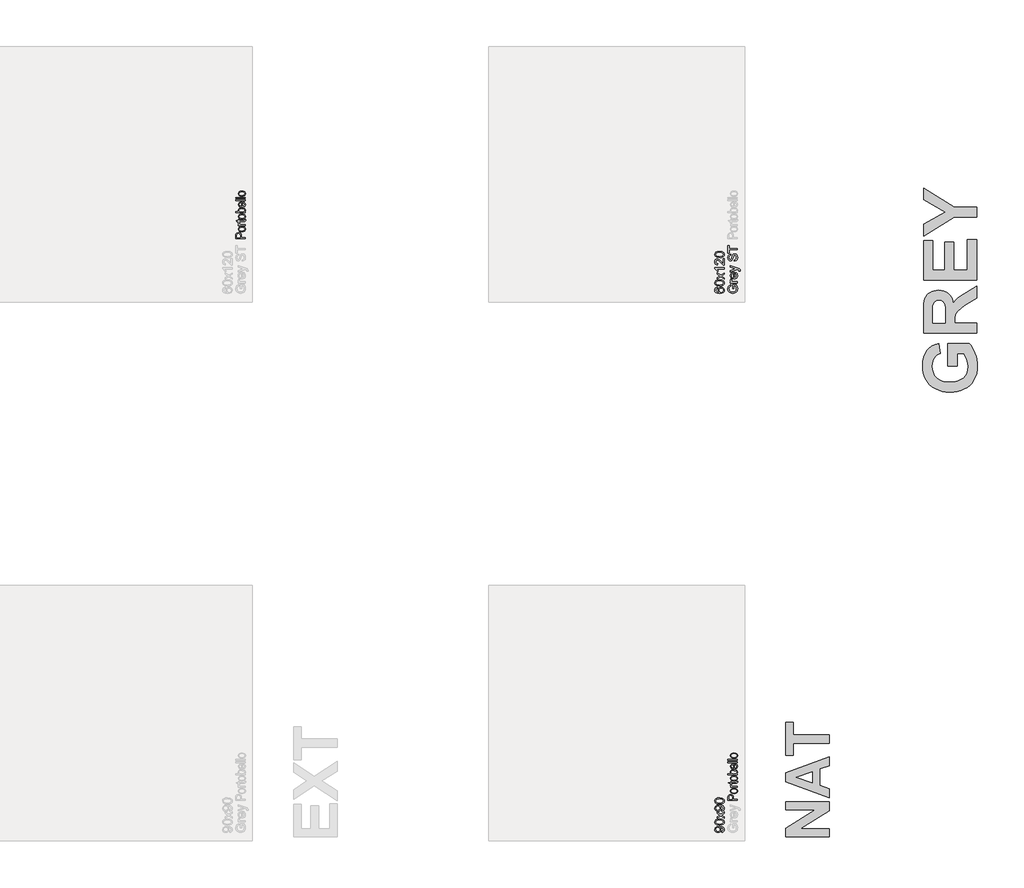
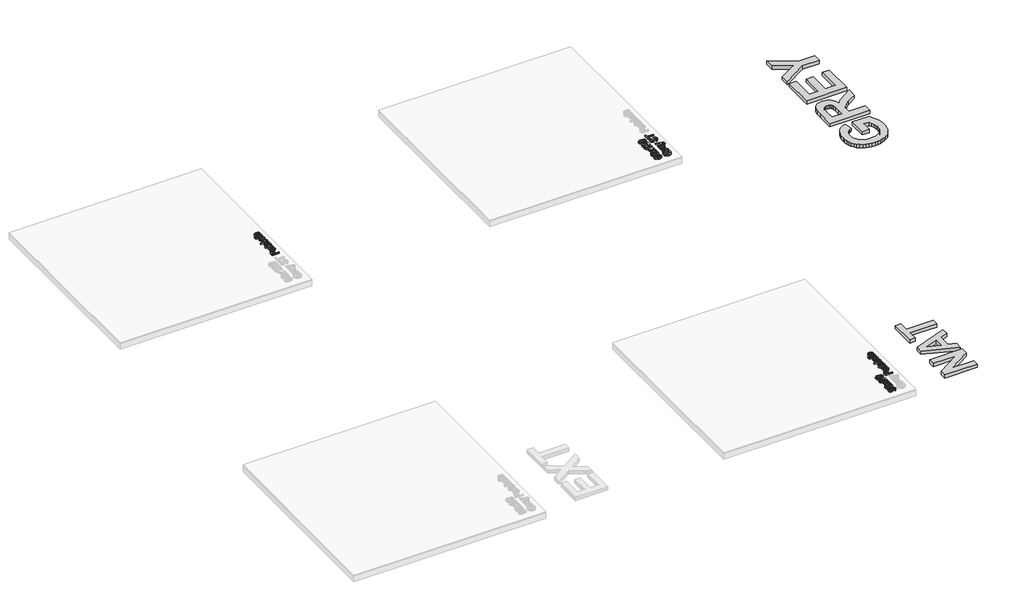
# One storey, part 10 of 12: 7 proxies.
"""IFC4 building model written with IfcOpenShell, lengths in millimetres."""

from ifc_helpers import new_model, si_unit, frame, origin, origin_with_axes, place, context, project, spatial, polyline, outline, extrude, element, save

model = new_model("IFC4")

# Units and contexts
model_context = context("Model", 3, world=origin())
ifc_project = project(units=[si_unit("LENGTHUNIT", "METRE", prefix="MILLI")], contexts=[model_context])

# Site, building, storey
site = spatial("IfcSite", under=ifc_project)
building = spatial("IfcBuilding", under=site)
storey = spatial("IfcBuildingStorey", under=building, Name="PORTOBELLO - SHOWROOM", Elevation=0.0)

# Proxies
placement = place(None, origin())
element("IfcBuildingElementProxy", 1, Name="10mm Arial", ObjectType="10mm Arial", at=placement, inside=storey, context=model_context, shape_type="SweptSolid", body=[
    extrude(outline(polyline([(-5849.6684495, 10045.4720907), (-5851.2380793, 10058.0291294), (-5839.257389, 10063.6699867), (-5835.5417809, 10074.36309), (-5837.9330138, 10084.5288958), (-5844.3218978, 10091.4205519), (-5855.2357304, 10095.5285675), (-5869.8038574, 10097.343452), (-5872.256404, 10097.2698756), (-5862.7405231, 10087.2266971), (-5859.0862286, 10073.4556478), (-5861.318046, 10062.0053207), (-5868.0134983, 10052.4741113), (-5878.3571138, 10046.0453734), (-5891.5334205, 10043.9024608), (-5905.1450544, 10046.1496067), (-5915.8136322, 10052.8910442), (-5922.7114196, 10063.0169961), (-5925.0106821, 10075.4176851), (-5919.7622323, 10093.3090128), (-5904.8016978, 10105.6207969), (-5876.6955134, 10109.8269143), (-5846.198096, 10105.6330596), (-5836.2070342, 10100.4183323), (-5828.919905, 10093.16186), (-5824.4685328, 10084.1763422), (-5822.9847421, 10073.7744788), (-5824.7352473, 10063.0384559), (-5829.9867628, 10054.4729368), (-5838.4081948, 10048.4825916), (-5849.6684495, 10045.4720907)]), holes=[polyline([(-5891.8277261, 10097.2698756), (-5900.338063, 10095.9148436), (-5906.8863625, 10091.8497475), (-5911.0618231, 10085.5405713), (-5912.4536433, 10077.4532988), (-5910.9545242, 10069.0655893), (-5906.4571668, 10062.3456115), (-5899.5747078, 10057.9310276), (-5890.9202839, 10056.4594996), (-5883.1610395, 10057.8513198), (-5877.0020817, 10062.0267804), (-5872.9829709, 10068.5812113), (-5871.6432673, 10077.1099422), (-5877.0020817, 10091.5922301), (-5883.3879, 10095.8504642), (-5891.8277261, 10097.2698756)])]), frame((0.0, 0.0, 18.0), z_axis=(0.0, 0.0, 1.0), x_axis=(1.0, 0.0, 0.0)), (0.0, 0.0, 1.0), 20.0),
    extrude(outline(polyline([(-5873.9731866, 10120.8143233), (-5902.8764487, 10124.505406), (-5919.5415031, 10135.4682894), (-5925.0106821, 10153.77655), (-5921.7733205, 10168.4427789), (-5912.4413806, 10178.5717965), (-5897.578948, 10184.4579084), (-5873.9731866, 10186.7387768), (-5845.1925519, 10183.0844823), (-5828.4907093, 10172.1583871), (-5824.3612339, 10163.9270274), (-5822.9847421, 10153.77655), (-5825.3759751, 10140.7290019), (-5832.549674, 10130.8207135), (-5849.5396908, 10123.3159208), (-5873.9731866, 10120.8143233)]), holes=[polyline([(-5873.9977121, 10133.371362), (-5854.2455147, 10134.84289), (-5842.8135817, 10139.257474), (-5837.3597311, 10145.8302989), (-5835.5417809, 10153.77655), (-5837.3658624, 10161.7228011), (-5842.8381071, 10168.2956261), (-5854.2761715, 10172.7102101), (-5873.9977121, 10174.181738), (-5893.3053855, 10172.759261), (-5904.8262233, 10168.4918298), (-5910.5467883, 10161.9312676), (-5912.4536433, 10153.6293972), (-5910.7736489, 10145.7689853), (-5905.7336656, 10139.4536777), (-5893.4954579, 10134.8919409), (-5873.9977121, 10133.371362)])]), frame((0.0, 0.0, 18.0), z_axis=(0.0, 0.0, 1.0), x_axis=(1.0, 0.0, 0.0)), (0.0, 0.0, 1.0), 20.0),
    extrude(outline(polyline([(-5824.554372, 10193.0172962), (-5861.6614025, 10219.8481564), (-5898.3269747, 10194.586926), (-5898.3269747, 10209.6455624), (-5880.6441135, 10221.8347191), (-5872.3299804, 10227.5491528), (-5879.14806, 10232.503297), (-5898.3269747, 10246.384711), (-5898.3269747, 10261.4923982), (-5861.6368771, 10234.9558436), (-5824.554372, 10260.5113796), (-5824.554372, 10245.4282178), (-5846.8725463, 10230.0262249), (-5850.9682992, 10227.2303217), (-5824.554372, 10208.1249835), (-5824.554372, 10193.0172962)])), frame((0.0, 0.0, 18.0), z_axis=(0.0, 0.0, 1.0), x_axis=(1.0, 0.0, 0.0)), (0.0, 0.0, 1.0), 20.0),
    extrude(outline(polyline([(-5849.6684495, 10269.9291586), (-5851.2380793, 10282.4861974), (-5839.257389, 10288.1270547), (-5835.5417809, 10298.820158), (-5837.9330138, 10308.9859638), (-5844.3218978, 10315.8776198), (-5855.2357304, 10319.9856355), (-5869.8038574, 10321.80052), (-5872.256404, 10321.7269436), (-5862.7405231, 10311.6837651), (-5859.0862286, 10297.9127157), (-5861.318046, 10286.4623886), (-5868.0134983, 10276.9311793), (-5878.3571138, 10270.5024414), (-5891.5334205, 10268.3595288), (-5905.1450544, 10270.6066747), (-5915.8136322, 10277.3481122), (-5922.7114196, 10287.4740641), (-5925.0106821, 10299.8747531), (-5919.7622323, 10317.7660808), (-5904.8016978, 10330.0778649), (-5876.6955134, 10334.2839823), (-5846.198096, 10330.0901276), (-5836.2070342, 10324.8754003), (-5828.919905, 10317.618928), (-5824.4685328, 10308.6334102), (-5822.9847421, 10298.2315468), (-5824.7352473, 10287.4955239), (-5829.9867628, 10278.9300048), (-5838.4081948, 10272.9396596), (-5849.6684495, 10269.9291586)]), holes=[polyline([(-5891.8277261, 10321.7269436), (-5900.338063, 10320.3719116), (-5906.8863625, 10316.3068155), (-5911.0618231, 10309.9976393), (-5912.4536433, 10301.9103668), (-5910.9545242, 10293.5226573), (-5906.4571668, 10286.8026795), (-5899.5747078, 10282.3880955), (-5890.9202839, 10280.9165676), (-5883.1610395, 10282.3083878), (-5877.0020817, 10286.4838484), (-5872.9829709, 10293.0382793), (-5871.6432673, 10301.5670102), (-5877.0020817, 10316.0492981), (-5883.3879, 10320.3075322), (-5891.8277261, 10321.7269436)])]), frame((0.0, 0.0, 18.0), z_axis=(0.0, 0.0, 1.0), x_axis=(1.0, 0.0, 0.0)), (0.0, 0.0, 1.0), 20.0),
    extrude(outline(polyline([(-5873.9731866, 10345.2713913), (-5902.8764487, 10348.9624739), (-5919.5415031, 10359.9253574), (-5925.0106821, 10378.233618), (-5921.7733205, 10392.8998469), (-5912.4413806, 10403.0288645), (-5897.578948, 10408.9149764), (-5873.9731866, 10411.1958448), (-5845.1925519, 10407.5415503), (-5828.4907093, 10396.6154551), (-5824.3612339, 10388.3840954), (-5822.9847421, 10378.233618), (-5825.3759751, 10365.1860699), (-5832.549674, 10355.2777815), (-5849.5396908, 10347.7729888), (-5873.9731866, 10345.2713913)]), holes=[polyline([(-5873.9977121, 10357.82843), (-5854.2455147, 10359.299958), (-5842.8135817, 10363.7145419), (-5837.3597311, 10370.2873669), (-5835.5417809, 10378.233618), (-5837.3658624, 10386.1798691), (-5842.8381071, 10392.7526941), (-5854.2761715, 10397.167278), (-5873.9977121, 10398.638806), (-5893.3053855, 10397.216329), (-5904.8262233, 10392.9488978), (-5910.5467883, 10386.3883356), (-5912.4536433, 10378.0864652), (-5910.7736489, 10370.2260533), (-5905.7336656, 10363.9107457), (-5893.4954579, 10359.3490089), (-5873.9977121, 10357.82843)])]), frame((0.0, 0.0, 18.0), z_axis=(0.0, 0.0, 1.0), x_axis=(1.0, 0.0, 0.0)), (0.0, 0.0, 1.0), 20.0),
])
element("IfcBuildingElementProxy", 2, Name="10mm Arial", ObjectType="10mm Arial", at=placement, inside=storey, context=model_context, shape_type="SweptSolid", body=[
    extrude(outline(polyline([(-5723.7951181, 15795.7002457), (-5736.3521569, 15795.7002457), (-5736.3521569, 15836.5106217), (-5698.8036679, 15836.5106217), (-5686.9578677, 15816.3629511), (-5682.9847421, 15795.0625836), (-5684.563569, 15780.9757689), (-5689.3000497, 15768.2439862), (-5697.0286373, 15757.6673788), (-5707.5837849, 15750.0460901), (-5720.2450569, 15745.4383681), (-5734.2920177, 15743.9024608), (-5748.4401461, 15745.4322368), (-5761.6011245, 15750.0215647), (-5772.64065, 15757.4803721), (-5780.4244199, 15767.6185868), (-5785.0413389, 15779.9671591), (-5786.580312, 15794.0570395), (-5783.0118566, 15813.701938), (-5773.0790427, 15827.4729874), (-5756.4630393, 15835.0636192), (-5753.2011523, 15823.4875991), (-5764.8139606, 15817.7609027), (-5771.5094129, 15807.9752416), (-5774.0232732, 15793.8608358), (-5771.3132092, 15777.7843926), (-5764.2008239, 15766.8460346), (-5754.5255274, 15760.3835742), (-5734.8070525, 15756.4594996), (-5712.9180738, 15761.1806518), (-5699.8214748, 15774.914913), (-5695.5417809, 15794.0570395), (-5698.7668797, 15811.2371287), (-5705.646273, 15823.953583), (-5723.7951181, 15823.953583), (-5723.7951181, 15795.7002457)])), frame((0.0, 0.0, 19.0), z_axis=(0.0, 0.0, 1.0), x_axis=(1.0, 0.0, 0.0)), (0.0, 0.0, 1.0), 20.0),
    extrude(outline(polyline([(-5684.554372, 15855.3461799), (-5758.3269747, 15855.3461799), (-5758.3269747, 15866.3335888), (-5747.4131422, 15866.3335888), (-5757.4685834, 15874.1326871), (-5759.8966046, 15881.9808363), (-5756.0215809, 15894.586926), (-5744.7643918, 15890.3930713), (-5747.3395658, 15881.5639034), (-5744.8624937, 15874.4637809), (-5737.9953631, 15869.9388324), (-5723.3291342, 15867.9032186), (-5684.554372, 15867.9032186), (-5684.554372, 15855.3461799)])), frame((0.0, 0.0, 19.0), z_axis=(0.0, 0.0, 1.0), x_axis=(1.0, 0.0, 0.0)), (0.0, 0.0, 1.0), 20.0),
    extrude(outline(polyline([(-5706.5291898, 15954.0857074), (-5704.95956, 15966.3974915), (-5695.6828023, 15961.9614478), (-5688.7482267, 15954.882785), (-5684.4256133, 15945.3209189), (-5682.9847421, 15933.4352647), (-5685.4710113, 15918.7015908), (-5692.9298187, 15907.364694), (-5704.8767865, 15900.1358128), (-5720.8275367, 15897.7261857), (-5737.3147814, 15900.1603383), (-5749.6449596, 15907.4627959), (-5757.3336933, 15918.6464085), (-5759.8966046, 15932.7240262), (-5757.3398247, 15946.3632512), (-5749.6694851, 15957.2617553), (-5737.3638324, 15964.407863), (-5720.9011131, 15966.789899), (-5717.5165987, 15966.7163226), (-5717.5165987, 15910.2832245), (-5708.1172137, 15912.4567939), (-5701.2071636, 15917.5059743), (-5696.9581266, 15924.7931035), (-5695.5417809, 15933.6805194), (-5698.1660058, 15945.9923035), (-5706.5291898, 15954.0857074)]), holes=[polyline([(-5730.0736375, 15910.2832245), (-5730.0736375, 15954.2328602), (-5741.4534539, 15949.2051396), (-5745.8680378, 15941.8842879), (-5747.3395658, 15932.6749753), (-5742.642939, 15917.2116687), (-5737.1523002, 15912.3464294), (-5730.0736375, 15910.2832245)])]), frame((0.0, 0.0, 19.0), z_axis=(0.0, 0.0, 1.0), x_axis=(1.0, 0.0, 0.0)), (0.0, 0.0, 1.0), 20.0),
    extrude(outline(polyline([(-5656.3010347, 15979.3469377), (-5668.3920896, 15977.7773079), (-5667.2884437, 15984.1539291), (-5668.6741325, 15990.1136174), (-5672.5368934, 15993.7679119), (-5681.7829943, 15997.2014772), (-5684.8241521, 15998.1824959), (-5758.3269747, 15971.4987885), (-5758.3269747, 15984.7180149), (-5717.3449205, 15998.8937344), (-5700.9619089, 16003.8233531), (-5715.4564596, 16008.7529719), (-5758.3269747, 16023.2965734), (-5758.3269747, 16036.4176979), (-5682.7885384, 16010.7395346), (-5666.4055269, 16004.0686078), (-5657.5518335, 15996.7845443), (-5654.7314049, 15987.0234087), (-5656.3010347, 15979.3469377)])), frame((0.0, 0.0, 19.0), z_axis=(0.0, 0.0, 1.0), x_axis=(1.0, 0.0, 0.0)), (0.0, 0.0, 1.0), 20.0),
    extrude(outline(polyline([(-5719.0862286, 16082.9425076), (-5719.0862286, 16095.4995463), (-5706.5169271, 16099.5462483), (-5698.570676, 16109.4300112), (-5695.5417809, 16124.4886476), (-5697.834912, 16137.609772), (-5704.1379568, 16146.0833207), (-5712.5624545, 16148.8669611), (-5720.398341, 16146.7822965), (-5726.1005119, 16138.2474342), (-5730.8952406, 16119.963699), (-5737.0879209, 16100.2820123), (-5746.4321235, 16089.6011717), (-5758.9155859, 16086.0817673), (-5773.1280937, 16090.4350375), (-5783.1590094, 16103.1514918), (-5786.580312, 16121.7663208), (-5782.9995939, 16141.6319485), (-5772.4781688, 16154.8757004), (-5756.7573449, 16159.85437), (-5756.7573449, 16147.2973313), (-5764.2498748, 16144.9919374), (-5769.6577402, 16140.184946), (-5774.0232732, 16122.2568301), (-5769.7067911, 16104.2796633), (-5759.2834679, 16098.638806), (-5750.5769274, 16102.636457), (-5743.562644, 16123.1397469), (-5737.2595991, 16145.3598194), (-5727.0815306, 16157.512188), (-5712.8812856, 16161.4239999), (-5697.8594375, 16156.9235768), (-5686.896554, 16143.9741306), (-5682.9847421, 16124.9791569), (-5687.2031223, 16102.5506179), (-5699.9073139, 16088.3626356), (-5719.0862286, 16082.9425076)])), frame((0.0, 0.0, 19.0), z_axis=(0.0, 0.0, 1.0), x_axis=(1.0, 0.0, 0.0)), (0.0, 0.0, 1.0), 20.0),
    extrude(outline(polyline([(-5684.554372, 16205.3736356), (-5772.4536433, 16205.3736356), (-5772.4536433, 16172.4114088), (-5785.0106821, 16172.4114088), (-5785.0106821, 16250.8929011), (-5772.4536433, 16250.8929011), (-5772.4536433, 16217.9306743), (-5684.554372, 16217.9306743), (-5684.554372, 16205.3736356)])), frame((0.0, 0.0, 19.0), z_axis=(0.0, 0.0, 1.0), x_axis=(1.0, 0.0, 0.0)), (0.0, 0.0, 1.0), 20.0),
])
element("IfcBuildingElementProxy", 3, Name="10mm Arial", ObjectType="10mm Arial", at=placement, inside=storey, context=model_context, shape_type="SweptSolid", body=[
    extrude(outline(polyline([(-5898.3269747, 15808.2572845), (-5896.7573449, 15795.7002457), (-5907.229719, 15790.9423053), (-5912.4536433, 15778.360741), (-5909.4124855, 15767.0299756), (-5897.9958809, 15758.4583251), (-5875.6163929, 15754.8898697), (-5885.6350459, 15765.9631178), (-5888.9091956, 15779.6851162), (-5886.6712468, 15791.2856618), (-5879.9574004, 15801.0222719), (-5869.6996241, 15807.6257537), (-5856.8298857, 15809.8269143), (-5839.5026437, 15805.6821105), (-5827.2399105, 15794.2777687), (-5822.9847421, 15777.8211808), (-5825.8051707, 15763.5749505), (-5834.2664566, 15752.2288566), (-5849.2024656, 15744.8068374), (-5871.4470636, 15742.332831), (-5896.4569079, 15745.0796832), (-5913.5572893, 15753.3202399), (-5922.1473339, 15764.5712976), (-5925.0106821, 15779.1455559), (-5923.2387172, 15790.1636217), (-5917.9228223, 15798.9866582), (-5909.4799305, 15805.1670757), (-5898.3269747, 15808.2572845)]), holes=[polyline([(-5857.0260894, 15754.8898697), (-5846.1490451, 15757.7961375), (-5838.2518449, 15765.5216594), (-5835.5417809, 15776.8401621), (-5836.9458638, 15785.1267041), (-5841.1581127, 15791.641281), (-5847.7799886, 15795.8627269), (-5856.4129527, 15797.2698756), (-5864.6994947, 15795.881121), (-5871.0178679, 15791.7148574), (-5875.0185846, 15785.0899159), (-5876.3521569, 15776.3251273), (-5871.0178679, 15761.1316009), (-5864.8527788, 15756.4503025), (-5857.0260894, 15754.8898697)])]), frame((0.0, 0.0, 19.0), z_axis=(0.0, 0.0, 1.0), x_axis=(1.0, 0.0, 0.0)), (0.0, 0.0, 1.0), 20.0),
    extrude(outline(polyline([(-5873.9731866, 15820.8143233), (-5902.8764487, 15824.505406), (-5919.5415031, 15835.4682894), (-5925.0106821, 15853.77655), (-5921.7733205, 15868.4427789), (-5912.4413806, 15878.5717965), (-5897.578948, 15884.4579084), (-5873.9731866, 15886.7387768), (-5845.1925519, 15883.0844823), (-5828.4907093, 15872.1583871), (-5824.3612339, 15863.9270274), (-5822.9847421, 15853.77655), (-5825.3759751, 15840.7290019), (-5832.549674, 15830.8207135), (-5849.5396908, 15823.3159208), (-5873.9731866, 15820.8143233)]), holes=[polyline([(-5873.9977121, 15833.371362), (-5854.2455147, 15834.84289), (-5842.8135817, 15839.257474), (-5837.3597311, 15845.8302989), (-5835.5417809, 15853.77655), (-5837.3658624, 15861.7228011), (-5842.8381071, 15868.2956261), (-5854.2761715, 15872.7102101), (-5873.9977121, 15874.181738), (-5893.3053855, 15872.759261), (-5904.8262233, 15868.4918298), (-5910.5467883, 15861.9312676), (-5912.4536433, 15853.6293972), (-5910.7736489, 15845.7689853), (-5905.7336656, 15839.4536777), (-5893.4954579, 15834.8919409), (-5873.9977121, 15833.371362)])]), frame((0.0, 0.0, 19.0), z_axis=(0.0, 0.0, 1.0), x_axis=(1.0, 0.0, 0.0)), (0.0, 0.0, 1.0), 20.0),
    extrude(outline(polyline([(-5824.554372, 15893.0172962), (-5861.6614025, 15919.8481564), (-5898.3269747, 15894.586926), (-5898.3269747, 15909.6455624), (-5880.6441135, 15921.8347191), (-5872.3299804, 15927.5491528), (-5879.14806, 15932.503297), (-5898.3269747, 15946.384711), (-5898.3269747, 15961.4923982), (-5861.6368771, 15934.9558436), (-5824.554372, 15960.5113796), (-5824.554372, 15945.4282178), (-5846.8725463, 15930.0262249), (-5850.9682992, 15927.2303217), (-5824.554372, 15908.1249835), (-5824.554372, 15893.0172962)])), frame((0.0, 0.0, 19.0), z_axis=(0.0, 0.0, 1.0), x_axis=(1.0, 0.0, 0.0)), (0.0, 0.0, 1.0), 20.0),
    extrude(outline(polyline([(-5824.554372, 16015.4484242), (-5824.554372, 16002.8913854), (-5902.8396605, 16002.8913854), (-5894.3661119, 15990.9965342), (-5888.0262789, 15977.7773079), (-5899.8966046, 15977.7773079), (-5911.6443029, 15996.1836704), (-5925.0106821, 16007.3550203), (-5925.0106821, 16015.4484242), (-5824.554372, 16015.4484242)])), frame((0.0, 0.0, 19.0), z_axis=(0.0, 0.0, 1.0), x_axis=(1.0, 0.0, 0.0)), (0.0, 0.0, 1.0), 20.0),
    extrude(outline(polyline([(-5837.1114107, 16109.6262149), (-5824.554372, 16109.6262149), (-5824.554372, 16043.7017614), (-5833.2118616, 16045.0506621), (-5846.5414525, 16052.6903448), (-5861.0973168, 16068.4234315), (-5882.0175396, 16090.091681), (-5896.2423101, 16095.4995463), (-5907.7570165, 16090.3859866), (-5912.4536433, 16077.0318702), (-5907.8673811, 16063.113668), (-5895.187715, 16057.82843), (-5896.7573449, 16045.2713913), (-5908.9035821, 16048.3156148), (-5917.7756695, 16054.8976368), (-5923.201929, 16064.6741008), (-5925.0106821, 16077.3016503), (-5922.9995939, 16090.0211703), (-5916.9663291, 16099.7792402), (-5907.9532203, 16105.9872489), (-5897.0025995, 16108.0565851), (-5885.0954856, 16105.8247677), (-5872.7837015, 16098.4058141), (-5855.5790869, 16080.4163845), (-5843.5002947, 16065.9708849), (-5837.1114107, 16060.3055021), (-5837.1114107, 16109.6262149)])), frame((0.0, 0.0, 19.0), z_axis=(0.0, 0.0, 1.0), x_axis=(1.0, 0.0, 0.0)), (0.0, 0.0, 1.0), 20.0),
    extrude(outline(polyline([(-5873.9731866, 16122.1832537), (-5902.8764487, 16125.8743364), (-5919.5415031, 16136.8372199), (-5925.0106821, 16155.1454805), (-5921.7733205, 16169.8117094), (-5912.4413806, 16179.940727), (-5897.578948, 16185.8268389), (-5873.9731866, 16188.1077073), (-5845.1925519, 16184.4534128), (-5828.4907093, 16173.5273175), (-5824.3612339, 16165.2959579), (-5822.9847421, 16155.1454805), (-5825.3759751, 16142.0979324), (-5832.549674, 16132.189644), (-5849.5396908, 16124.6848513), (-5873.9731866, 16122.1832537)]), holes=[polyline([(-5873.9977121, 16134.7402925), (-5854.2455147, 16136.2118205), (-5842.8135817, 16140.6264044), (-5837.3597311, 16147.1992294), (-5835.5417809, 16155.1454805), (-5837.3658624, 16163.0917316), (-5842.8381071, 16169.6645566), (-5854.2761715, 16174.0791405), (-5873.9977121, 16175.5506685), (-5893.3053855, 16174.1281914), (-5904.8262233, 16169.8607603), (-5910.5467883, 16163.300198), (-5912.4536433, 16154.9983277), (-5910.7736489, 16147.1379157), (-5905.7336656, 16140.8226081), (-5893.4954579, 16136.2608714), (-5873.9977121, 16134.7402925)])]), frame((0.0, 0.0, 19.0), z_axis=(0.0, 0.0, 1.0), x_axis=(1.0, 0.0, 0.0)), (0.0, 0.0, 1.0), 20.0),
])
element("IfcBuildingElementProxy", 4, Name="10mm Arial Narrow", ObjectType="10mm Arial Narrow", at=placement, inside=storey, context=model_context, shape_type="SweptSolid", body=[
    extrude(outline(polyline([(-5684.554372, 10383.3301461), (-5785.2729757, 10383.3301461), (-5785.2729757, 10414.6270308), (-5783.394655, 10430.9227323), (-5773.9142118, 10442.3957184), (-5756.895103, 10446.6853968), (-5744.8192774, 10444.8990884), (-5735.1928837, 10439.5401632), (-5728.8916253, 10429.7963744), (-5726.7912058, 10414.8554752), (-5726.7912058, 10393.0771077), (-5684.554372, 10393.0771077), (-5684.554372, 10383.3301461)]), holes=[polyline([(-5738.1626611, 10393.0771077), (-5738.1626611, 10416.0484627), (-5742.6934753, 10431.9126581), (-5756.362066, 10436.9384352), (-5766.5278424, 10434.4636207), (-5772.3277923, 10428.4859919), (-5773.9015204, 10415.8200183), (-5773.9015204, 10393.0771077), (-5738.1626611, 10393.0771077)])]), frame((0.0, 0.0, 18.0), z_axis=(0.0, 0.0, 1.0), x_axis=(1.0, 0.0, 0.0)), (0.0, 0.0, 1.0), 20.0),
    extrude(outline(polyline([(-5721.1054782, 10454.8078649), (-5737.6962537, 10456.7623337), (-5749.6483385, 10462.6257404), (-5756.8728931, 10471.4843071), (-5759.281078, 10482.4242562), (-5756.8728931, 10493.2372918), (-5749.6483385, 10502.1212412), (-5737.8866241, 10508.060796), (-5721.8669595, 10510.0406476), (-5704.705073, 10508.0956972), (-5692.5626178, 10502.2608461), (-5685.3380632, 10493.411798), (-5682.9298783, 10482.4242562), (-5685.3444089, 10471.563628), (-5692.5880005, 10462.6891971), (-5704.546431, 10456.7781979), (-5721.1054782, 10454.8078649)]), holes=[polyline([(-5721.1308609, 10464.5548265), (-5708.5791095, 10465.8588634), (-5699.7078514, 10469.770974), (-5694.4345929, 10475.6121707), (-5692.67684, 10482.7034661), (-5694.450457, 10489.4235392), (-5699.7713082, 10495.1156125), (-5708.6584304, 10498.9991676), (-5721.1308609, 10500.2936859), (-5733.6445382, 10498.9896491), (-5742.5031049, 10495.0775385), (-5747.7763635, 10489.2363417), (-5749.5341163, 10482.1450464), (-5747.7668449, 10475.3773806), (-5742.4650308, 10469.6948258), (-5733.5969456, 10465.8398263), (-5721.1308609, 10464.5548265)])]), frame((0.0, 0.0, 18.0), z_axis=(0.0, 0.0, 1.0), x_axis=(1.0, 0.0, 0.0)), (0.0, 0.0, 1.0), 20.0),
    extrude(outline(polyline([(-5692.67684, 10581.5183664), (-5682.9298783, 10583.14286), (-5682.9298783, 10575.7818733), (-5685.0493349, 10567.507109), (-5690.8492847, 10563.1920478), (-5705.4951099, 10562.0244431), (-5747.9096227, 10562.0244431), (-5747.9096227, 10553.901975), (-5751.1586099, 10553.901975), (-5746.2851291, 10552.2774814), (-5747.9096227, 10544.713433), (-5745.5871045, 10538.6342734), (-5739.1018214, 10534.7634097), (-5723.6945148, 10532.7835581), (-5684.554372, 10532.7835581), (-5684.554372, 10523.0365964), (-5757.6565844, 10523.0365964), (-5757.6565844, 10532.7835581), (-5747.9603881, 10532.7835581), (-5757.0473993, 10539.0277054), (-5759.281078, 10545.424149), (-5757.6565844, 10553.901975), (-5757.6565844, 10562.0244431), (-5773.9015204, 10562.0244431), (-5782.0239885, 10571.7714047), (-5757.6565844, 10571.7714047), (-5757.6565844, 10581.5183664), (-5747.9096227, 10581.5183664), (-5747.9096227, 10571.7714047), (-5703.2614312, 10571.7714047), (-5695.2658767, 10572.6344169), (-5692.67684, 10577.2540706), (-5692.67684, 10581.5183664)])), frame((0.0, 0.0, 18.0), z_axis=(0.0, 0.0, 1.0), x_axis=(1.0, 0.0, 0.0)), (0.0, 0.0, 1.0), 20.0),
    extrude(outline(polyline([(-5721.1054782, 10588.0163408), (-5737.6962537, 10589.9708097), (-5749.6483385, 10595.8342163), (-5756.8728931, 10604.692783), (-5759.281078, 10615.6327321), (-5756.8728931, 10626.4457677), (-5749.6483385, 10635.3297172), (-5737.8866241, 10641.2692719), (-5721.8669595, 10643.2491235), (-5704.705073, 10641.3041731), (-5692.5626178, 10635.4693221), (-5685.3380632, 10626.6202739), (-5682.9298783, 10615.6327321), (-5685.3444089, 10604.772104), (-5692.5880005, 10595.8976731), (-5704.546431, 10589.9866739), (-5721.1054782, 10588.0163408)]), holes=[polyline([(-5721.1308609, 10597.7633025), (-5708.5791095, 10599.0673393), (-5699.7078514, 10602.9794499), (-5694.4345929, 10608.8206466), (-5692.67684, 10615.911942), (-5694.450457, 10622.6320152), (-5699.7713082, 10628.3240885), (-5708.6584304, 10632.2076435), (-5721.1308609, 10633.5021618), (-5733.6445382, 10632.198125), (-5742.5031049, 10628.2860144), (-5747.7763635, 10622.4448177), (-5749.5341163, 10615.3535223), (-5747.7668449, 10608.5858566), (-5742.4650308, 10602.9033018), (-5733.5969456, 10599.0483023), (-5721.1308609, 10597.7633025)])]), frame((0.0, 0.0, 18.0), z_axis=(0.0, 0.0, 1.0), x_axis=(1.0, 0.0, 0.0)), (0.0, 0.0, 1.0), 20.0),
    extrude(outline(polyline([(-5684.554372, 10665.992034), (-5684.554372, 10656.2450724), (-5785.2729757, 10656.2450724), (-5785.2729757, 10665.992034), (-5749.8640916, 10665.992034), (-5756.9458684, 10673.3910948), (-5759.281078, 10682.5923281), (-5755.080239, 10695.4740548), (-5742.3508086, 10704.7514362), (-5721.6638978, 10708.2288679), (-5705.2095544, 10706.2966089), (-5693.0068153, 10700.4998319), (-5685.4491126, 10692.1267095), (-5682.9298783, 10682.4654145), (-5685.5442978, 10673.1245763), (-5693.3114078, 10665.992034), (-5684.554372, 10665.992034)]), holes=[polyline([(-5721.6638978, 10665.992034), (-5704.4163446, 10668.0734165), (-5695.6846915, 10673.9622058), (-5692.67684, 10682.4146491), (-5694.4663212, 10688.3573767), (-5699.834765, 10693.595734), (-5721.2577744, 10698.4819062), (-5742.6934753, 10693.773413), (-5747.8239561, 10688.52871), (-5749.5341163, 10682.2115874), (-5747.7446351, 10676.2339586), (-5742.3761914, 10670.941663), (-5721.6638978, 10665.992034)])]), frame((0.0, 0.0, 18.0), z_axis=(0.0, 0.0, 1.0), x_axis=(1.0, 0.0, 0.0)), (0.0, 0.0, 1.0), 20.0),
    extrude(outline(polyline([(-5707.2972825, 10760.2126633), (-5705.6727889, 10769.959625), (-5695.7862223, 10766.2600946), (-5688.6663714, 10760.4411078), (-5684.3640016, 10752.7374545), (-5682.9298783, 10743.3839249), (-5685.3444089, 10731.7903709), (-5692.5880005, 10722.6462486), (-5704.3941347, 10716.7066939), (-5720.4962931, 10714.7268423), (-5737.1632167, 10716.7162124), (-5749.343746, 10722.6843227), (-5756.796745, 10731.6983585), (-5759.281078, 10742.8255052), (-5756.8824116, 10753.5084544), (-5749.6864126, 10762.2559717), (-5737.946908, 10768.0908228), (-5721.917725, 10770.0357731), (-5718.6687377, 10769.959625), (-5718.6687377, 10724.4738039), (-5699.2255799, 10730.4768155), (-5694.314025, 10736.4068517), (-5692.67684, 10743.5108384), (-5696.3319506, 10753.6893062), (-5707.2972825, 10760.2126633)]), holes=[polyline([(-5728.4156994, 10725.1337545), (-5728.4156994, 10760.2126633), (-5742.6807839, 10755.9483676), (-5747.8207832, 10750.1230351), (-5749.5341163, 10742.9016533), (-5743.823006, 10730.6925685), (-5728.4156994, 10725.1337545)])]), frame((0.0, 0.0, 18.0), z_axis=(0.0, 0.0, 1.0), x_axis=(1.0, 0.0, 0.0)), (0.0, 0.0, 1.0), 20.0),
    extrude(outline(polyline([(-5684.554372, 10782.9555739), (-5785.2729757, 10782.9555739), (-5785.2729757, 10792.7025355), (-5684.554372, 10792.7025355), (-5684.554372, 10782.9555739)])), frame((0.0, 0.0, 18.0), z_axis=(0.0, 0.0, 1.0), x_axis=(1.0, 0.0, 0.0)), (0.0, 0.0, 1.0), 20.0),
    extrude(outline(polyline([(-5684.554372, 10808.9474716), (-5785.2729757, 10808.9474716), (-5785.2729757, 10818.6944333), (-5684.554372, 10818.6944333), (-5684.554372, 10808.9474716)])), frame((0.0, 0.0, 18.0), z_axis=(0.0, 0.0, 1.0), x_axis=(1.0, 0.0, 0.0)), (0.0, 0.0, 1.0), 20.0),
    extrude(outline(polyline([(-5721.1054782, 10830.0658885), (-5737.6962537, 10832.0203574), (-5749.6483385, 10837.883764), (-5756.8728931, 10846.7423307), (-5759.281078, 10857.6822799), (-5756.8728931, 10868.4953155), (-5749.6483385, 10877.3792649), (-5737.8866241, 10883.3188196), (-5721.8669595, 10885.2986712), (-5704.705073, 10883.3537209), (-5692.5626178, 10877.5188698), (-5685.3380632, 10868.6698216), (-5682.9298783, 10857.6822799), (-5685.3444089, 10846.8216517), (-5692.5880005, 10837.9472208), (-5704.546431, 10832.0362216), (-5721.1054782, 10830.0658885)]), holes=[polyline([(-5721.1308609, 10839.8128502), (-5708.5791095, 10841.116887), (-5699.7078514, 10845.0289976), (-5694.4345929, 10850.8701944), (-5692.67684, 10857.9614897), (-5694.450457, 10864.6815629), (-5699.7713082, 10870.3736362), (-5708.6584304, 10874.2571912), (-5721.1308609, 10875.5517096), (-5733.6445382, 10874.2476727), (-5742.5031049, 10870.3355621), (-5747.7763635, 10864.4943654), (-5749.5341163, 10857.40307), (-5747.7668449, 10850.6354043), (-5742.4650308, 10844.9528495), (-5733.5969456, 10841.09785), (-5721.1308609, 10839.8128502)])]), frame((0.0, 0.0, 18.0), z_axis=(0.0, 0.0, 1.0), x_axis=(1.0, 0.0, 0.0)), (0.0, 0.0, 1.0), 20.0),
])
element("IfcBuildingElementProxy", 5, Name="10mm Arial Narrow", ObjectType="10mm Arial Narrow", at=placement, inside=storey, context=model_context, shape_type="SweptSolid", body=[
    extrude(outline(polyline([(-10884.579388, 16323.3301461), (-10985.2979918, 16323.3301461), (-10985.2979918, 16354.6270308), (-10983.4196711, 16370.9227323), (-10973.9392279, 16382.3957184), (-10956.9201191, 16386.6853968), (-10944.8442935, 16384.8990884), (-10935.2178998, 16379.5401632), (-10928.9166413, 16369.7963744), (-10926.8162219, 16354.8554752), (-10926.8162219, 16333.0771077), (-10884.579388, 16333.0771077), (-10884.579388, 16323.3301461)]), holes=[polyline([(-10938.1876771, 16333.0771077), (-10938.1876771, 16356.0484627), (-10942.7184913, 16371.9126581), (-10956.3870821, 16376.9384352), (-10966.5528585, 16374.4636207), (-10972.3528083, 16368.4859919), (-10973.9265365, 16355.8200183), (-10973.9265365, 16333.0771077), (-10938.1876771, 16333.0771077)])]), frame((0.0, 0.0, 19.0), z_axis=(0.0, 0.0, 1.0), x_axis=(1.0, 0.0, 0.0)), (0.0, 0.0, 1.0), 20.0),
    extrude(outline(polyline([(-10921.1304942, 16394.8078649), (-10937.7212698, 16396.7623337), (-10949.6733546, 16402.6257404), (-10956.8979092, 16411.4843071), (-10959.3060941, 16422.4242562), (-10956.8979092, 16433.2372918), (-10949.6733546, 16442.1212412), (-10937.9116401, 16448.060796), (-10921.8919756, 16450.0406476), (-10904.730089, 16448.0956972), (-10892.5876339, 16442.2608461), (-10885.3630793, 16433.411798), (-10882.9548944, 16422.4242562), (-10885.369425, 16411.563628), (-10892.6130166, 16402.6891971), (-10904.5714471, 16396.7781979), (-10921.1304942, 16394.8078649)]), holes=[polyline([(-10921.155877, 16404.5548265), (-10908.6041256, 16405.8588634), (-10899.7328675, 16409.770974), (-10894.4596089, 16415.6121707), (-10892.7018561, 16422.7034661), (-10894.4754731, 16429.4235392), (-10899.7963243, 16435.1156125), (-10908.6834465, 16438.9991676), (-10921.155877, 16440.2936859), (-10933.6695543, 16438.9896491), (-10942.528121, 16435.0775385), (-10947.8013795, 16429.2363417), (-10949.5591324, 16422.1450464), (-10947.791861, 16415.3773806), (-10942.4900469, 16409.6948258), (-10933.6219617, 16405.8398263), (-10921.155877, 16404.5548265)])]), frame((0.0, 0.0, 19.0), z_axis=(0.0, 0.0, 1.0), x_axis=(1.0, 0.0, 0.0)), (0.0, 0.0, 1.0), 20.0),
    extrude(outline(polyline([(-10892.7018561, 16521.5183664), (-10882.9548944, 16523.14286), (-10882.9548944, 16515.7818733), (-10885.0743509, 16507.507109), (-10890.8743008, 16503.1920478), (-10905.520126, 16502.0244431), (-10947.9346388, 16502.0244431), (-10947.9346388, 16493.901975), (-10951.183626, 16493.901975), (-10946.3101452, 16492.2774814), (-10947.9346388, 16484.713433), (-10945.6121206, 16478.6342734), (-10939.1268375, 16474.7634097), (-10923.7195309, 16472.7835581), (-10884.579388, 16472.7835581), (-10884.579388, 16463.0365964), (-10957.6816004, 16463.0365964), (-10957.6816004, 16472.7835581), (-10947.9854042, 16472.7835581), (-10957.0724153, 16479.0277054), (-10959.3060941, 16485.424149), (-10957.6816004, 16493.901975), (-10957.6816004, 16502.0244431), (-10973.9265365, 16502.0244431), (-10982.0490046, 16511.7714047), (-10957.6816004, 16511.7714047), (-10957.6816004, 16521.5183664), (-10947.9346388, 16521.5183664), (-10947.9346388, 16511.7714047), (-10903.2864473, 16511.7714047), (-10895.2908928, 16512.6344169), (-10892.7018561, 16517.2540706), (-10892.7018561, 16521.5183664)])), frame((0.0, 0.0, 19.0), z_axis=(0.0, 0.0, 1.0), x_axis=(1.0, 0.0, 0.0)), (0.0, 0.0, 1.0), 20.0),
    extrude(outline(polyline([(-10921.1304942, 16528.0163408), (-10937.7212698, 16529.9708097), (-10949.6733546, 16535.8342163), (-10956.8979092, 16544.692783), (-10959.3060941, 16555.6327321), (-10956.8979092, 16566.4457677), (-10949.6733546, 16575.3297172), (-10937.9116401, 16581.2692719), (-10921.8919756, 16583.2491235), (-10904.730089, 16581.3041731), (-10892.5876339, 16575.4693221), (-10885.3630793, 16566.6202739), (-10882.9548944, 16555.6327321), (-10885.369425, 16544.772104), (-10892.6130166, 16535.8976731), (-10904.5714471, 16529.9866739), (-10921.1304942, 16528.0163408)]), holes=[polyline([(-10921.155877, 16537.7633025), (-10908.6041256, 16539.0673393), (-10899.7328675, 16542.9794499), (-10894.4596089, 16548.8206466), (-10892.7018561, 16555.911942), (-10894.4754731, 16562.6320152), (-10899.7963243, 16568.3240885), (-10908.6834465, 16572.2076435), (-10921.155877, 16573.5021618), (-10933.6695543, 16572.198125), (-10942.528121, 16568.2860144), (-10947.8013795, 16562.4448177), (-10949.5591324, 16555.3535223), (-10947.791861, 16548.5858566), (-10942.4900469, 16542.9033018), (-10933.6219617, 16539.0483023), (-10921.155877, 16537.7633025)])]), frame((0.0, 0.0, 19.0), z_axis=(0.0, 0.0, 1.0), x_axis=(1.0, 0.0, 0.0)), (0.0, 0.0, 1.0), 20.0),
    extrude(outline(polyline([(-10884.579388, 16605.992034), (-10884.579388, 16596.2450724), (-10985.2979918, 16596.2450724), (-10985.2979918, 16605.992034), (-10949.8891077, 16605.992034), (-10956.9708845, 16613.3910948), (-10959.3060941, 16622.5923281), (-10955.1052551, 16635.4740548), (-10942.3758247, 16644.7514362), (-10921.6889139, 16648.2288679), (-10905.2345705, 16646.2966089), (-10893.0318313, 16640.4998319), (-10885.4741287, 16632.1267095), (-10882.9548944, 16622.4654145), (-10885.5693138, 16613.1245763), (-10893.3364239, 16605.992034), (-10884.579388, 16605.992034)]), holes=[polyline([(-10921.6889139, 16605.992034), (-10904.4413607, 16608.0734165), (-10895.7097075, 16613.9622058), (-10892.7018561, 16622.4146491), (-10894.4913373, 16628.3573767), (-10899.859781, 16633.595734), (-10921.2827905, 16638.4819062), (-10942.7184913, 16633.773413), (-10947.8489721, 16628.52871), (-10949.5591324, 16622.2115874), (-10947.7696512, 16616.2339586), (-10942.4012074, 16610.941663), (-10921.6889139, 16605.992034)])]), frame((0.0, 0.0, 19.0), z_axis=(0.0, 0.0, 1.0), x_axis=(1.0, 0.0, 0.0)), (0.0, 0.0, 1.0), 20.0),
    extrude(outline(polyline([(-10907.3222986, 16700.2126633), (-10905.697805, 16709.959625), (-10895.8112384, 16706.2600946), (-10888.6913875, 16700.4411078), (-10884.3890177, 16692.7374545), (-10882.9548944, 16683.3839249), (-10885.369425, 16671.7903709), (-10892.6130166, 16662.6462486), (-10904.4191508, 16656.7066939), (-10920.5213091, 16654.7268423), (-10937.1882328, 16656.7162124), (-10949.3687621, 16662.6843227), (-10956.8217611, 16671.6983585), (-10959.3060941, 16682.8255052), (-10956.9074277, 16693.5084544), (-10949.7114287, 16702.2559717), (-10937.9719241, 16708.0908228), (-10921.942741, 16710.0357731), (-10918.6937538, 16709.959625), (-10918.6937538, 16664.4738039), (-10899.2505959, 16670.4768155), (-10894.339041, 16676.4068517), (-10892.7018561, 16683.5108384), (-10896.3569667, 16693.6893062), (-10907.3222986, 16700.2126633)]), holes=[polyline([(-10928.4407155, 16665.1337545), (-10928.4407155, 16700.2126633), (-10942.7058, 16695.9483676), (-10947.8457993, 16690.1230351), (-10949.5591324, 16682.9016533), (-10943.8480221, 16670.6925685), (-10928.4407155, 16665.1337545)])]), frame((0.0, 0.0, 19.0), z_axis=(0.0, 0.0, 1.0), x_axis=(1.0, 0.0, 0.0)), (0.0, 0.0, 1.0), 20.0),
    extrude(outline(polyline([(-10884.579388, 16722.9555739), (-10985.2979918, 16722.9555739), (-10985.2979918, 16732.7025355), (-10884.579388, 16732.7025355), (-10884.579388, 16722.9555739)])), frame((0.0, 0.0, 19.0), z_axis=(0.0, 0.0, 1.0), x_axis=(1.0, 0.0, 0.0)), (0.0, 0.0, 1.0), 20.0),
    extrude(outline(polyline([(-10884.579388, 16748.9474716), (-10985.2979918, 16748.9474716), (-10985.2979918, 16758.6944333), (-10884.579388, 16758.6944333), (-10884.579388, 16748.9474716)])), frame((0.0, 0.0, 19.0), z_axis=(0.0, 0.0, 1.0), x_axis=(1.0, 0.0, 0.0)), (0.0, 0.0, 1.0), 20.0),
    extrude(outline(polyline([(-10921.1304942, 16770.0658885), (-10937.7212698, 16772.0203574), (-10949.6733546, 16777.883764), (-10956.8979092, 16786.7423307), (-10959.3060941, 16797.6822799), (-10956.8979092, 16808.4953155), (-10949.6733546, 16817.3792649), (-10937.9116401, 16823.3188196), (-10921.8919756, 16825.2986712), (-10904.730089, 16823.3537209), (-10892.5876339, 16817.5188698), (-10885.3630793, 16808.6698216), (-10882.9548944, 16797.6822799), (-10885.369425, 16786.8216517), (-10892.6130166, 16777.9472208), (-10904.5714471, 16772.0362216), (-10921.1304942, 16770.0658885)]), holes=[polyline([(-10921.155877, 16779.8128502), (-10908.6041256, 16781.116887), (-10899.7328675, 16785.0289976), (-10894.4596089, 16790.8701944), (-10892.7018561, 16797.9614897), (-10894.4754731, 16804.6815629), (-10899.7963243, 16810.3736362), (-10908.6834465, 16814.2571912), (-10921.155877, 16815.5517096), (-10933.6695543, 16814.2476727), (-10942.528121, 16810.3355621), (-10947.8013795, 16804.4943654), (-10949.5591324, 16797.40307), (-10947.791861, 16790.6354043), (-10942.4900469, 16784.9528495), (-10933.6219617, 16781.09785), (-10921.155877, 16779.8128502)])]), frame((0.0, 0.0, 19.0), z_axis=(0.0, 0.0, 1.0), x_axis=(1.0, 0.0, 0.0)), (0.0, 0.0, 1.0), 20.0),
])
element("IfcBuildingElementProxy", 6, Name="450mm Arial", ObjectType="450mm Arial", at=placement, inside=storey, context=model_context, shape_type="SweptSolid", body=[
    extrude(outline(polyline([(-4714.3439144, 9997.8588339), (-5173.4606444, 9997.8588339), (-5173.4606444, 10089.5227644), (-4864.4222502, 10282.0739525), (-5173.4606444, 10282.0739525), (-5173.4606444, 10369.5247582), (-4714.3439144, 10369.5247582), (-4714.3439144, 10275.0141218), (-5018.8275791, 10085.3096396), (-4714.3439144, 10085.3096396), (-4714.3439144, 9997.8588339)])), origin_with_axes(), (0.0, 0.0, 1.0), 50.0),
    extrude(outline(polyline([(-4714.3439144, 10843.2166225), (-4714.3439144, 10751.3249555), (-4816.3698544, 10715.3425928), (-4816.3698544, 10542.0351366), (-4714.3439144, 10506.5082468), (-4714.3439144, 10413.250161), (-5173.4606444, 10580.6364689), (-5173.4606444, 10674.0084229), (-4714.3439144, 10843.2166225)]), holes=[polyline([(-4896.533093, 10687.3310065), (-5064.1471372, 10628.2333918), (-4896.533093, 10569.9328546), (-4896.533093, 10687.3310065)])]), origin_with_axes(), (0.0, 0.0, 1.0), 50.0),
    extrude(outline(polyline([(-4714.3439144, 10988.9679653), (-5093.2974058, 10988.9679653), (-5093.2974058, 10857.7917567), (-5173.4606444, 10857.7917567), (-5173.4606444, 11207.5949796), (-5093.2974058, 11207.5949796), (-5093.2974058, 11076.418771), (-4714.3439144, 11076.418771), (-4714.3439144, 10988.9679653)])), origin_with_axes(), (0.0, 0.0, 1.0), 50.0),
])
element("IfcBuildingElementProxy", 7, Name="550mm Arial", ObjectType="550mm Arial", at=placement, inside=storey, context=model_context, shape_type="SweptSolid", body=[
    extrude(outline(polyline([(-3362.3534081, 14975.1538742), (-3460.3306997, 14975.1538742), (-3460.3306997, 15215.6435899), (-3236.5416587, 15215.6435899), (-3219.6017816, 15196.1420729), (-3203.714395, 15172.7089387), (-3175.097093, 15114.0478188), (-3163.4979525, 15080.6812625), (-3155.2128522, 15047.1059477), (-3150.241792, 15013.3218745), (-3148.5847719, 14979.3290429), (-3150.889813, 14937.4294856), (-3157.8049361, 14898.2959775), (-3169.3301413, 14861.9285187), (-3185.4654285, 14828.3271091), (-3205.8846128, 14798.1093258), (-3230.2615091, 14771.8927458), (-3258.5961174, 14749.6773692), (-3290.8884376, 14731.4631958), (-3325.912014, 14717.2763206), (-3362.4403908, 14707.1428383), (-3400.4735679, 14701.0627489), (-3440.0115455, 14699.0360525), (-3482.4982359, 14701.3280461), (-3522.5581095, 14708.204027), (-3560.1911663, 14719.6639952), (-3595.3974063, 14735.7079507), (-3627.411382, 14756.1706263), (-3655.4676456, 14780.886755), (-3679.5661973, 14809.8563369), (-3699.7070371, 14843.0793718), (-3711.8846124, 14871.6618807), (-3720.5828804, 14903.5497314), (-3725.8018413, 14938.742924), (-3727.5414949, 14977.2414585), (-3724.7319543, 15026.512798), (-3716.3033326, 15070.086772), (-3702.2556296, 15107.9633803), (-3682.5888455, 15140.142623), (-3657.9640486, 15166.8593534), (-3629.0423072, 15188.3484247), (-3595.8236215, 15204.6098368), (-3558.3079913, 15215.6435899), (-3540.4939382, 15108.7592718), (-3560.0693905, 15101.1308907), (-3577.4615776, 15090.7712534), (-3592.6704993, 15077.68036), (-3605.6961557, 15061.8582104), (-3616.1384265, 15043.6005457), (-3623.5971914, 15023.203107), (-3628.0724503, 15000.6658945), (-3629.5642033, 14975.9889079), (-3626.6502835, 14939.0125703), (-3617.9085241, 14906.0200395), (-3603.3389251, 14877.0113155), (-3582.9414864, 14851.9863983), (-3556.8031909, 14831.8325111), (-3525.0110211, 14817.4368775), (-3487.564977, 14808.7994973), (-3444.4650587, 14805.9203705), (-3398.0815442, 14808.7821007), (-3357.8824983, 14817.3672913), (-3323.867921, 14831.6759423), (-3296.0378123, 14851.7080537), (-3274.3921722, 14876.3850402), (-3258.9310007, 14904.6283167), (-3249.6542978, 14936.437883), (-3246.5620635, 14971.8137393), (-3249.954388, 15008.503034), (-3260.1313617, 15045.3662941), (-3275.1445724, 15079.6896599), (-3293.0456081, 15108.7592718), (-3362.3534081, 15108.7592718), (-3362.3534081, 14975.1538742)])), origin_with_axes(), (0.0, 0.0, 1.0), 50.0),
    extrude(outline(polyline([(-3157.4917984, 15322.527908), (-3718.6344684, 15322.527908), (-3718.6344684, 15558.5641104), (-3714.8420235, 15635.4568002), (-3703.4646889, 15687.9943394), (-3694.4010935, 15707.1653222), (-3682.3800871, 15724.3183069), (-3667.4016694, 15739.4532933), (-3649.4658407, 15752.5702816), (-3629.3467466, 15763.1647721), (-3607.8185331, 15770.7322653), (-3584.8812002, 15775.2727612), (-3560.5347479, 15776.7862599), (-3530.1864906, 15774.5986455), (-3502.6042825, 15768.0358022), (-3477.7881237, 15757.0977301), (-3455.7380141, 15741.7844291), (-3436.9845482, 15722.1132959), (-3422.0583202, 15698.1017269), (-3410.9593301, 15669.7497221), (-3403.687578, 15637.0572815), (-3381.3504256, 15668.057909), (-3356.9256888, 15693.1437141), (-3321.5411343, 15719.099346), (-3266.3245286, 15752.7094538), (-3157.4917984, 15821.3213924), (-3157.4917984, 15696.483849), (-3285.6694768, 15615.2072321), (-3361.7271328, 15551.3967375), (-3374.9311037, 15533.6870637), (-3383.2292515, 15514.9335978), (-3387.6131786, 15490.0391546), (-3389.0744876, 15453.906549), (-3389.0744876, 15429.4122261), (-3157.4917984, 15429.4122261), (-3157.4917984, 15322.527908)]), holes=[polyline([(-3487.0517792, 15429.4122261), (-3487.0517792, 15517.5082851), (-3488.6696571, 15587.0422401), (-3493.5232906, 15624.4621894), (-3502.3259379, 15643.4939999), (-3515.7908569, 15657.8635388), (-3533.5527203, 15666.892341), (-3555.2462009, 15669.9019418), (-3579.2708173, 15665.9355315), (-3598.1808521, 15654.0363008), (-3611.5239953, 15634.9001111), (-3618.8479371, 15609.2228237), (-3620.6571768, 15522.3793153), (-3620.6571768, 15429.4122261), (-3487.0517792, 15429.4122261)])]), origin_with_axes(), (0.0, 0.0, 1.0), 50.0),
    extrude(outline(polyline([(-3157.4917984, 15883.670578), (-3718.6344684, 15883.670578), (-3718.6344684, 16302.3008238), (-3620.6571768, 16302.3008238), (-3620.6571768, 15990.5548961), (-3495.9588057, 15990.5548961), (-3495.9588057, 16284.4867708), (-3397.9815141, 16284.4867708), (-3397.9815141, 15990.5548961), (-3255.46909, 15990.5548961), (-3255.46909, 16311.2078503), (-3157.4917984, 16311.2078503), (-3157.4917984, 15883.670578)])), origin_with_axes(), (0.0, 0.0, 1.0), 50.0),
    extrude(outline(polyline([(-3157.4917984, 16551.697566), (-3393.6671732, 16551.697566), (-3718.6344684, 16351.2894696), (-3718.6344684, 16475.152807), (-3488.3043298, 16605.0005528), (-3718.6344684, 16734.9874709), (-3718.6344684, 16858.9899805), (-3392.8321394, 16658.5818841), (-3157.4917984, 16658.5818841), (-3157.4917984, 16551.697566)])), origin_with_axes(), (0.0, 0.0, 1.0), 50.0),
])

save(model, "model.ifc")
